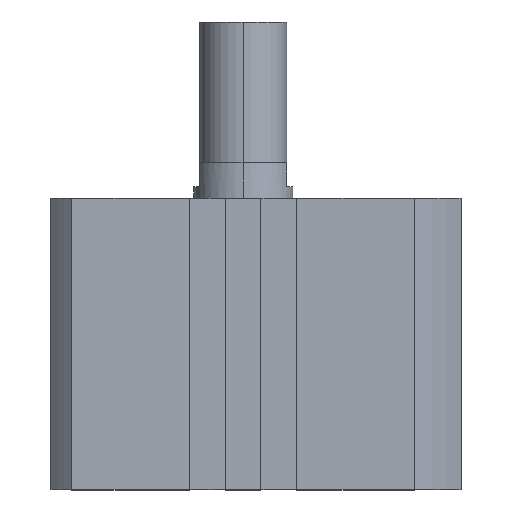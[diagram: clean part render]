
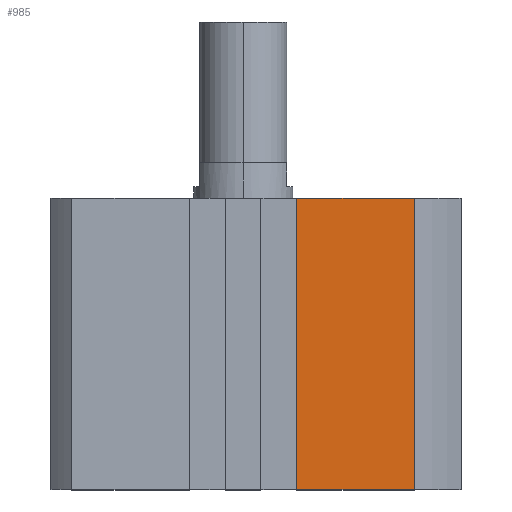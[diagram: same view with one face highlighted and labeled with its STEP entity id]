
A CAD part, top view. The second image highlights one B-rep face of the part: STEP entity #985.
In plain terms, the highlighted planar face has unit normal (0, 0, 1).
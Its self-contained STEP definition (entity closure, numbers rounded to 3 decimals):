
#12 = CARTESIAN_POINT ( 'NONE',  ( 13.5, 0., 48.5 ) ) ;
#140 = EDGE_CURVE ( 'NONE', #876, #703, #2164, .T. ) ;
#180 = VECTOR ( 'NONE', #2436, 1000. ) ;
#381 = PLANE ( 'NONE',  #2100 ) ;
#461 = VECTOR ( 'NONE', #2026, 1000. ) ;
#678 = DIRECTION ( 'NONE',  ( 1., 0., 0. ) ) ;
#703 = VERTEX_POINT ( 'NONE', #2891 ) ;
#743 = VERTEX_POINT ( 'NONE', #12 ) ;
#876 = VERTEX_POINT ( 'NONE', #2863 ) ;
#985 = ADVANCED_FACE ( 'NONE', ( #1962 ), #381, .T. ) ;
#1118 = VERTEX_POINT ( 'NONE', #2484 ) ;
#1129 = VECTOR ( 'NONE', #678, 1000. ) ;
#1406 = ORIENTED_EDGE ( 'NONE', *, *, #140, .T. ) ;
#1420 = LINE ( 'NONE', #2229, #1129 ) ;
#1446 = ORIENTED_EDGE ( 'NONE', *, *, #3330, .F. ) ;
#1451 = EDGE_CURVE ( 'NONE', #1118, #876, #1420, .T. ) ;
#1461 = CARTESIAN_POINT ( 'NONE',  ( 13.5, -73.5, 48.5 ) ) ;
#1547 = ORIENTED_EDGE ( 'NONE', *, *, #1451, .T. ) ;
#1557 = VECTOR ( 'NONE', #2889, 1000. ) ;
#1597 = CARTESIAN_POINT ( 'NONE',  ( 0., 0., 48.5 ) ) ;
#1850 = LINE ( 'NONE', #1461, #461 ) ;
#1962 = FACE_OUTER_BOUND ( 'NONE', #2320, .T. ) ;
#2026 = DIRECTION ( 'NONE',  ( 0., 1., 0. ) ) ;
#2100 = AXIS2_PLACEMENT_3D ( 'NONE', #2193, #3222, #3249 ) ;
#2164 = LINE ( 'NONE', #2694, #180 ) ;
#2193 = CARTESIAN_POINT ( 'NONE',  ( 0., -73.5, 48.5 ) ) ;
#2229 = CARTESIAN_POINT ( 'NONE',  ( 0., -73.5, 48.5 ) ) ;
#2242 = LINE ( 'NONE', #1597, #1557 ) ;
#2320 = EDGE_LOOP ( 'NONE', ( #1446, #2335, #1547, #1406 ) ) ;
#2335 = ORIENTED_EDGE ( 'NONE', *, *, #3082, .F. ) ;
#2436 = DIRECTION ( 'NONE',  ( 0., 1., 0. ) ) ;
#2484 = CARTESIAN_POINT ( 'NONE',  ( 13.5, -73.5, 48.5 ) ) ;
#2694 = CARTESIAN_POINT ( 'NONE',  ( 43.275, -73.5, 48.5 ) ) ;
#2863 = CARTESIAN_POINT ( 'NONE',  ( 43.275, -73.5, 48.5 ) ) ;
#2889 = DIRECTION ( 'NONE',  ( 1., 0., 0. ) ) ;
#2891 = CARTESIAN_POINT ( 'NONE',  ( 43.275, 0., 48.5 ) ) ;
#3082 = EDGE_CURVE ( 'NONE', #1118, #743, #1850, .T. ) ;
#3222 = DIRECTION ( 'NONE',  ( 0., 0., 1. ) ) ;
#3249 = DIRECTION ( 'NONE',  ( 1., 0., 0. ) ) ;
#3330 = EDGE_CURVE ( 'NONE', #743, #703, #2242, .T. ) ;
